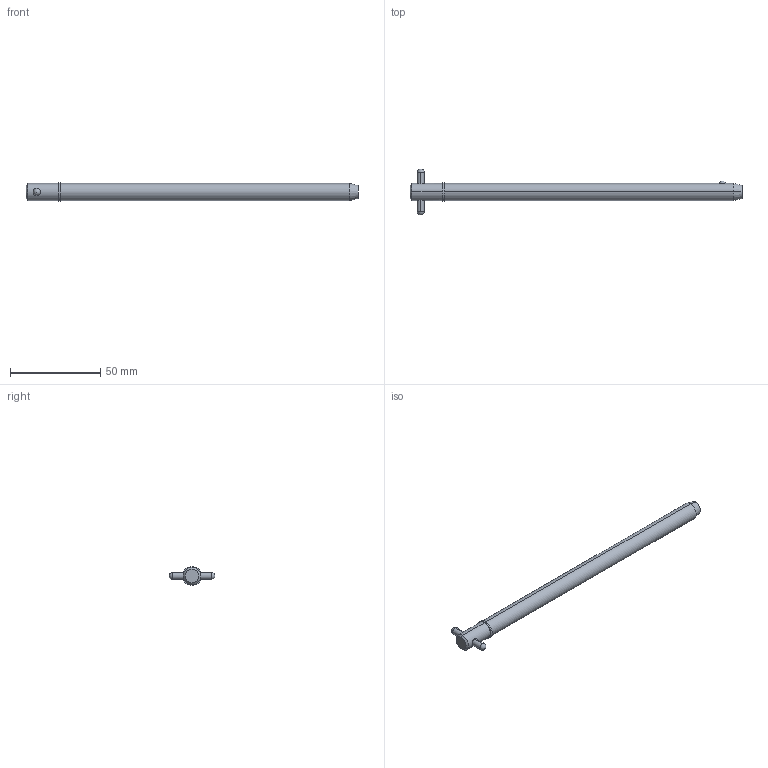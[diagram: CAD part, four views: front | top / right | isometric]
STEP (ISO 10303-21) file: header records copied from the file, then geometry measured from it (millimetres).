
FILE_DESCRIPTION (( 'STEP AP203' ), '1' );
FILE_NAME ('33018.W3760.step', '2024-11-19T17:12:23', ( '' ), ( '' ), 'SwSTEP 2.0', 'SolidWorks 2019', '' );
FILE_SCHEMA (( 'CONFIG_CONTROL_DESIGN' ));
Length unit declared in the file: millimetre
Products named in the file (3): 33018.W3760; Part1_33018.W3760; Part2_33018.W3760
Assembly tree (2 placements, depth 2):
  33018.W3760
    Part1_33018.W3760
    Part2_33018.W3760
Bounding box: 184.15 x 25.4 x 10.48 mm (x, y, z)
Volume: 13254 mm3; surface area: 6037.8 mm2
Topology: 2 solids, 2 shells, 22 faces, 47 edges, 30 vertices
Faces by surface type: cylinder 10, sphere 4, cone 4, plane 4
Entity records: 1023 total; most frequent: CARTESIAN_POINT 266, DIRECTION 110, ORIENTED_EDGE 82, AXIS2_PLACEMENT_3D 48, EDGE_CURVE 41, EDGE_LOOP 27, PERSON_AND_ORGANIZATION 26, VERTEX_POINT 26
